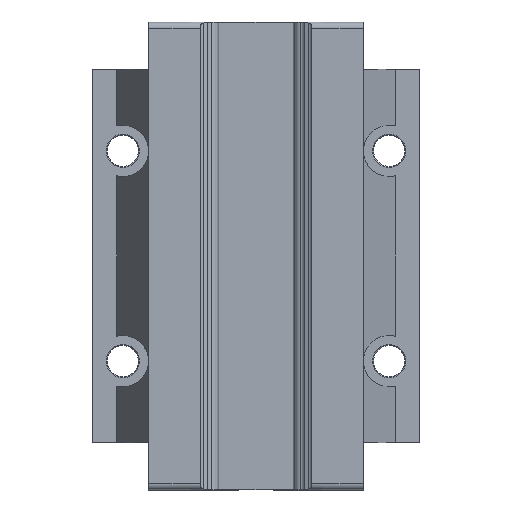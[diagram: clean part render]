
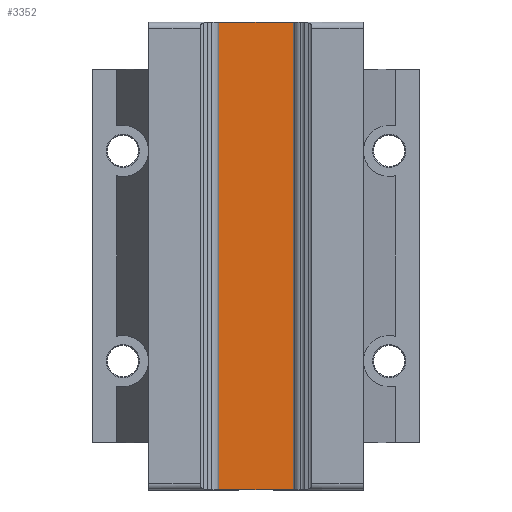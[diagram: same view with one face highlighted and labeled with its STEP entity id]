
A CAD part, front view. The second image highlights one B-rep face of the part: STEP entity #3352.
In plain terms, the highlighted planar face has unit normal (0, -1, 0).
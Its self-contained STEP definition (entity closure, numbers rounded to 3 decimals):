
#727 = VERTEX_POINT ( 'NONE', #5164 ) ;
#729 = EDGE_CURVE ( 'NONE', #727, #730, #5163, .T. ) ;
#730 = VERTEX_POINT ( 'NONE', #5159 ) ;
#995 = VERTEX_POINT ( 'NONE', #5848 ) ;
#1253 = EDGE_CURVE ( 'NONE', #995, #1254, #6703, .T. ) ;
#1254 = VERTEX_POINT ( 'NONE', #6699 ) ;
#3107 = ORIENTED_EDGE ( 'NONE', *, *, #3156, .F. ) ;
#3109 = ORIENTED_EDGE ( 'NONE', *, *, #729, .F. ) ;
#3156 = EDGE_CURVE ( 'NONE', #730, #995, #12642, .T. ) ;
#3167 = ORIENTED_EDGE ( 'NONE', *, *, #3169, .T. ) ;
#3169 = EDGE_CURVE ( 'NONE', #727, #1254, #12727, .T. ) ;
#3172 = ORIENTED_EDGE ( 'NONE', *, *, #1253, .F. ) ;
#3352 = ADVANCED_FACE ( 'NONE', ( #13259 ), #13257, .F. ) ;
#3353 = EDGE_LOOP ( 'NONE', ( #3167, #3172, #3107, #3109 ) ) ;
#5159 = CARTESIAN_POINT ( 'NONE',  ( -8.834, 9.2, -10.05 ) ) ;
#5160 = DIRECTION ( 'NONE',  ( -1., 0., 0. ) ) ;
#5161 = VECTOR ( 'NONE', #5160, 1000. ) ;
#5162 = CARTESIAN_POINT ( 'NONE',  ( -9.2, 9.2, -10.05 ) ) ;
#5163 = LINE ( 'NONE', #5162, #5161 ) ;
#5164 = CARTESIAN_POINT ( 'NONE',  ( 8.834, 9.2, -10.05 ) ) ;
#5848 = CARTESIAN_POINT ( 'NONE',  ( -8.834, 9.2, 90.05 ) ) ;
#6699 = CARTESIAN_POINT ( 'NONE',  ( 8.834, 9.2, 90.05 ) ) ;
#6700 = DIRECTION ( 'NONE',  ( 1., 0., 0. ) ) ;
#6701 = VECTOR ( 'NONE', #6700, 1000. ) ;
#6702 = CARTESIAN_POINT ( 'NONE',  ( -9.2, 9.2, 90.05 ) ) ;
#6703 = LINE ( 'NONE', #6702, #6701 ) ;
#12639 = DIRECTION ( 'NONE',  ( 0., 0., 1. ) ) ;
#12640 = VECTOR ( 'NONE', #12639, 1000. ) ;
#12641 = CARTESIAN_POINT ( 'NONE',  ( -8.834, 9.2, -10.1 ) ) ;
#12642 = LINE ( 'NONE', #12641, #12640 ) ;
#12724 = DIRECTION ( 'NONE',  ( 0., 0., 1. ) ) ;
#12725 = VECTOR ( 'NONE', #12724, 1000. ) ;
#12726 = CARTESIAN_POINT ( 'NONE',  ( 8.834, 9.2, -10.1 ) ) ;
#12727 = LINE ( 'NONE', #12726, #12725 ) ;
#13255 = CARTESIAN_POINT ( 'NONE',  ( 8.834, 9.2, -10.1 ) ) ;
#13256 = AXIS2_PLACEMENT_3D ( 'NONE', #13255, #13373, #13372 ) ;
#13257 = PLANE ( 'NONE',  #13256 ) ;
#13259 = FACE_OUTER_BOUND ( 'NONE', #3353, .T. ) ;
#13372 = DIRECTION ( 'NONE',  ( 0., 0., 1. ) ) ;
#13373 = DIRECTION ( 'NONE',  ( 0., 1., 0. ) ) ;
